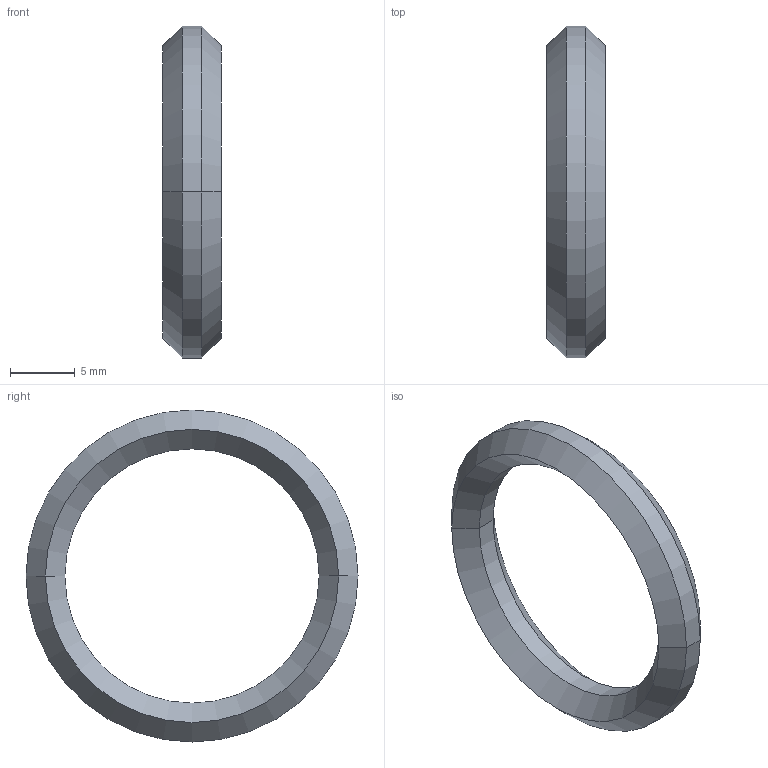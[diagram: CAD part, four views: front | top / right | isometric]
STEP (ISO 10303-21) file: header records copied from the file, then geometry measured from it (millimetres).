
FILE_DESCRIPTION((''),'2;1');
FILE_NAME('W:\211-167.stp','2003-10-08T15:33:23',('KAA'),(''),'Autodesk Inventor (R) 6.0','Autodesk Inventor (R) 6.0','');
FILE_SCHEMA(('CONFIG_CONTROL_DESIGN'));
Length unit declared in the file: millimetre
Products named in the file (1): 211-167
Bounding box: 4.5 x 25.6 x 25.6 mm (x, y, z)
Volume: 639 mm3; surface area: 815.5 mm2
Topology: 1 solids, 1 shells, 12 faces, 24 edges, 12 vertices
Faces by surface type: cone 8, cylinder 4
Entity records: 403 total; most frequent: DIRECTION 62, CARTESIAN_POINT 49, ORIENTED_EDGE 48, AXIS2_PLACEMENT_3D 25, EDGE_CURVE 24, VERTEX_POINT 12, VECTOR 12, LINE 12
